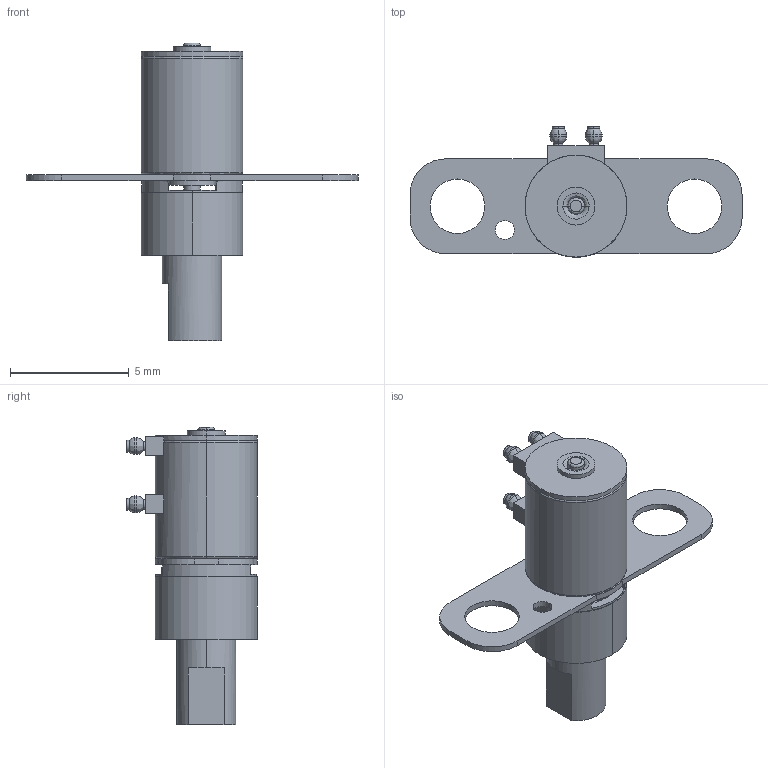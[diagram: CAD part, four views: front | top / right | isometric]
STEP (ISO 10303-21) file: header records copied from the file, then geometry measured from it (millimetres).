
FILE_DESCRIPTION (( 'STEP AP203' ), '1' );
FILE_NAME ('ƒÓ4_MUI301-20141216.STEP', '2014-12-16T08:50:56', ( '' ), ( '' ), 'SwSTEP 2.0', 'SolidWorks 2013', '' );
FILE_SCHEMA (( 'CONFIG_CONTROL_DESIGN' ));
Length unit declared in the file: millimetre
Products named in the file (1): 冇4_MUI301-20141216
Bounding box: 14 x 5.5 x 12.55 mm (x, y, z)
Volume: 129.4 mm3; surface area: 341.6 mm2
Topology: 3 solids, 3 shells, 155 faces, 362 edges, 228 vertices
Faces by surface type: cylinder 76, plane 52, bspline 25, cone 2
Entity records: 4925 total; most frequent: CARTESIAN_POINT 1361, DIRECTION 751, ORIENTED_EDGE 724, EDGE_CURVE 362, AXIS2_PLACEMENT_3D 303, VERTEX_POINT 228, EDGE_LOOP 178, CIRCLE 172
